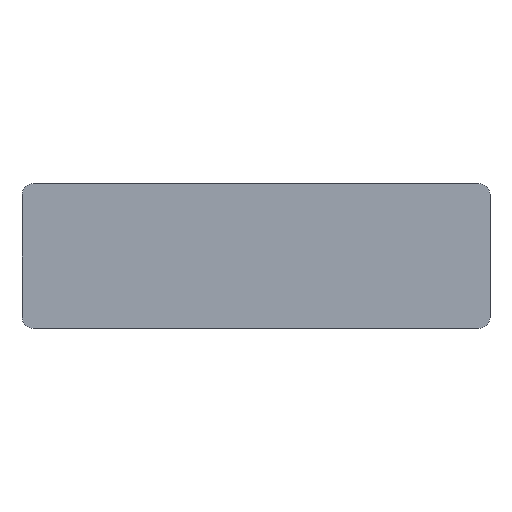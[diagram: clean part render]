
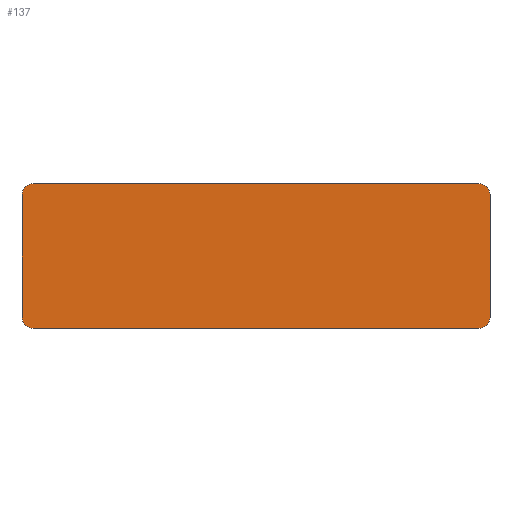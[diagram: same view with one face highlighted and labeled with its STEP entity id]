
A CAD part, top view. The second image highlights one B-rep face of the part: STEP entity #137.
In plain terms, the highlighted planar face has unit normal (0, 0, 1).
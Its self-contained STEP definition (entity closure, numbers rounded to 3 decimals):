
#21 = EDGE_CURVE('',#22,#24,#26,.T.);
#22 = VERTEX_POINT('',#23);
#23 = CARTESIAN_POINT('',(42.,51.,51.8));
#24 = VERTEX_POINT('',#25);
#25 = CARTESIAN_POINT('',(42.,73.,51.8));
#26 = SURFACE_CURVE('',#27,(#31,#43),.PCURVE_S1.);
#27 = LINE('',#28,#29);
#28 = CARTESIAN_POINT('',(42.,49.,51.8));
#29 = VECTOR('',#30,1.);
#30 = DIRECTION('',(0.,1.,0.));
#31 = PCURVE('',#32,#37);
#32 = PLANE('',#33);
#33 = AXIS2_PLACEMENT_3D('',#34,#35,#36);
#34 = CARTESIAN_POINT('',(42.,49.,51.45));
#35 = DIRECTION('',(1.,0.,0.));
#36 = DIRECTION('',(0.,0.,1.));
#37 = DEFINITIONAL_REPRESENTATION('',(#38),#42);
#38 = LINE('',#39,#40);
#39 = CARTESIAN_POINT('',(0.35,0.));
#40 = VECTOR('',#41,1.);
#41 = DIRECTION('',(0.,-1.));
#42 = ( GEOMETRIC_REPRESENTATION_CONTEXT(2) 
PARAMETRIC_REPRESENTATION_CONTEXT() REPRESENTATION_CONTEXT('2D SPACE',''
  ) );
#43 = PCURVE('',#44,#49);
#44 = PLANE('',#45);
#45 = AXIS2_PLACEMENT_3D('',#46,#47,#48);
#46 = CARTESIAN_POINT('',(42.,49.,51.8));
#47 = DIRECTION('',(0.,0.,1.));
#48 = DIRECTION('',(1.,0.,0.));
#49 = DEFINITIONAL_REPRESENTATION('',(#50),#54);
#50 = LINE('',#51,#52);
#51 = CARTESIAN_POINT('',(0.,0.));
#52 = VECTOR('',#53,1.);
#53 = DIRECTION('',(0.,1.));
#54 = ( GEOMETRIC_REPRESENTATION_CONTEXT(2) 
PARAMETRIC_REPRESENTATION_CONTEXT() REPRESENTATION_CONTEXT('2D SPACE',''
  ) );
#72 = CYLINDRICAL_SURFACE('',#73,2.);
#73 = AXIS2_PLACEMENT_3D('',#74,#75,#76);
#74 = CARTESIAN_POINT('',(44.,51.,51.45));
#75 = DIRECTION('',(0.,0.,1.));
#76 = DIRECTION('',(-1.,-0.,0.));
#126 = CYLINDRICAL_SURFACE('',#127,2.);
#127 = AXIS2_PLACEMENT_3D('',#128,#129,#130);
#128 = CARTESIAN_POINT('',(44.,73.,51.45));
#129 = DIRECTION('',(0.,0.,1.));
#130 = DIRECTION('',(-1.,-0.,0.));
#137 = ADVANCED_FACE('',(#138),#44,.T.);
#138 = FACE_BOUND('',#139,.T.);
#139 = EDGE_LOOP('',(#140,#141,#165,#193,#226,#254,#283,#311));
#140 = ORIENTED_EDGE('',*,*,#21,.F.);
#141 = ORIENTED_EDGE('',*,*,#142,.T.);
#142 = EDGE_CURVE('',#22,#143,#145,.T.);
#143 = VERTEX_POINT('',#144);
#144 = CARTESIAN_POINT('',(44.,49.,51.8));
#145 = SURFACE_CURVE('',#146,(#151,#158),.PCURVE_S1.);
#146 = CIRCLE('',#147,2.);
#147 = AXIS2_PLACEMENT_3D('',#148,#149,#150);
#148 = CARTESIAN_POINT('',(44.,51.,51.8));
#149 = DIRECTION('',(0.,0.,1.));
#150 = DIRECTION('',(0.,-1.,0.));
#151 = PCURVE('',#44,#152);
#152 = DEFINITIONAL_REPRESENTATION('',(#153),#157);
#153 = CIRCLE('',#154,2.);
#154 = AXIS2_PLACEMENT_2D('',#155,#156);
#155 = CARTESIAN_POINT('',(2.,2.));
#156 = DIRECTION('',(0.,-1.));
#157 = ( GEOMETRIC_REPRESENTATION_CONTEXT(2) 
PARAMETRIC_REPRESENTATION_CONTEXT() REPRESENTATION_CONTEXT('2D SPACE',''
  ) );
#158 = PCURVE('',#72,#159);
#159 = DEFINITIONAL_REPRESENTATION('',(#160),#164);
#160 = LINE('',#161,#162);
#161 = CARTESIAN_POINT('',(-4.712,0.35));
#162 = VECTOR('',#163,1.);
#163 = DIRECTION('',(1.,0.));
#164 = ( GEOMETRIC_REPRESENTATION_CONTEXT(2) 
PARAMETRIC_REPRESENTATION_CONTEXT() REPRESENTATION_CONTEXT('2D SPACE',''
  ) );
#165 = ORIENTED_EDGE('',*,*,#166,.T.);
#166 = EDGE_CURVE('',#143,#167,#169,.T.);
#167 = VERTEX_POINT('',#168);
#168 = CARTESIAN_POINT('',(124.,49.,51.8));
#169 = SURFACE_CURVE('',#170,(#174,#181),.PCURVE_S1.);
#170 = LINE('',#171,#172);
#171 = CARTESIAN_POINT('',(42.,49.,51.8));
#172 = VECTOR('',#173,1.);
#173 = DIRECTION('',(1.,0.,0.));
#174 = PCURVE('',#44,#175);
#175 = DEFINITIONAL_REPRESENTATION('',(#176),#180);
#176 = LINE('',#177,#178);
#177 = CARTESIAN_POINT('',(0.,0.));
#178 = VECTOR('',#179,1.);
#179 = DIRECTION('',(1.,0.));
#180 = ( GEOMETRIC_REPRESENTATION_CONTEXT(2) 
PARAMETRIC_REPRESENTATION_CONTEXT() REPRESENTATION_CONTEXT('2D SPACE',''
  ) );
#181 = PCURVE('',#182,#187);
#182 = PLANE('',#183);
#183 = AXIS2_PLACEMENT_3D('',#184,#185,#186);
#184 = CARTESIAN_POINT('',(42.,49.,51.45));
#185 = DIRECTION('',(0.,1.,0.));
#186 = DIRECTION('',(0.,0.,1.));
#187 = DEFINITIONAL_REPRESENTATION('',(#188),#192);
#188 = LINE('',#189,#190);
#189 = CARTESIAN_POINT('',(0.35,0.));
#190 = VECTOR('',#191,1.);
#191 = DIRECTION('',(0.,1.));
#192 = ( GEOMETRIC_REPRESENTATION_CONTEXT(2) 
PARAMETRIC_REPRESENTATION_CONTEXT() REPRESENTATION_CONTEXT('2D SPACE',''
  ) );
#193 = ORIENTED_EDGE('',*,*,#194,.F.);
#194 = EDGE_CURVE('',#195,#167,#197,.T.);
#195 = VERTEX_POINT('',#196);
#196 = CARTESIAN_POINT('',(126.,51.,51.8));
#197 = SURFACE_CURVE('',#198,(#203,#214),.PCURVE_S1.);
#198 = CIRCLE('',#199,2.);
#199 = AXIS2_PLACEMENT_3D('',#200,#201,#202);
#200 = CARTESIAN_POINT('',(124.,51.,51.8));
#201 = DIRECTION('',(-0.,-0.,-1.));
#202 = DIRECTION('',(0.,-1.,0.));
#203 = PCURVE('',#44,#204);
#204 = DEFINITIONAL_REPRESENTATION('',(#205),#213);
#205 = ( BOUNDED_CURVE() B_SPLINE_CURVE(2,(#206,#207,#208,#209,#210,#211
,#212),.UNSPECIFIED.,.T.,.F.) B_SPLINE_CURVE_WITH_KNOTS((1,2,2,2,2,1),(
    -2.094,0.,2.094,4.189,6.283,
8.378),.UNSPECIFIED.) CURVE() GEOMETRIC_REPRESENTATION_ITEM() 
RATIONAL_B_SPLINE_CURVE((1.,0.5,1.,0.5,1.,0.5,1.)) REPRESENTATION_ITEM(
  '') );
#206 = CARTESIAN_POINT('',(82.,0.));
#207 = CARTESIAN_POINT('',(78.536,0.));
#208 = CARTESIAN_POINT('',(80.268,3.));
#209 = CARTESIAN_POINT('',(82.,6.));
#210 = CARTESIAN_POINT('',(83.732,3.));
#211 = CARTESIAN_POINT('',(85.464,0.));
#212 = CARTESIAN_POINT('',(82.,0.));
#213 = ( GEOMETRIC_REPRESENTATION_CONTEXT(2) 
PARAMETRIC_REPRESENTATION_CONTEXT() REPRESENTATION_CONTEXT('2D SPACE',''
  ) );
#214 = PCURVE('',#215,#220);
#215 = CYLINDRICAL_SURFACE('',#216,2.);
#216 = AXIS2_PLACEMENT_3D('',#217,#218,#219);
#217 = CARTESIAN_POINT('',(124.,51.,51.45));
#218 = DIRECTION('',(0.,0.,1.));
#219 = DIRECTION('',(1.,0.,-0.));
#220 = DEFINITIONAL_REPRESENTATION('',(#221),#225);
#221 = LINE('',#222,#223);
#222 = CARTESIAN_POINT('',(4.712,0.35));
#223 = VECTOR('',#224,1.);
#224 = DIRECTION('',(-1.,0.));
#225 = ( GEOMETRIC_REPRESENTATION_CONTEXT(2) 
PARAMETRIC_REPRESENTATION_CONTEXT() REPRESENTATION_CONTEXT('2D SPACE',''
  ) );
#226 = ORIENTED_EDGE('',*,*,#227,.T.);
#227 = EDGE_CURVE('',#195,#228,#230,.T.);
#228 = VERTEX_POINT('',#229);
#229 = CARTESIAN_POINT('',(126.,73.,51.8));
#230 = SURFACE_CURVE('',#231,(#235,#242),.PCURVE_S1.);
#231 = LINE('',#232,#233);
#232 = CARTESIAN_POINT('',(126.,49.,51.8));
#233 = VECTOR('',#234,1.);
#234 = DIRECTION('',(0.,1.,0.));
#235 = PCURVE('',#44,#236);
#236 = DEFINITIONAL_REPRESENTATION('',(#237),#241);
#237 = LINE('',#238,#239);
#238 = CARTESIAN_POINT('',(84.,0.));
#239 = VECTOR('',#240,1.);
#240 = DIRECTION('',(0.,1.));
#241 = ( GEOMETRIC_REPRESENTATION_CONTEXT(2) 
PARAMETRIC_REPRESENTATION_CONTEXT() REPRESENTATION_CONTEXT('2D SPACE',''
  ) );
#242 = PCURVE('',#243,#248);
#243 = PLANE('',#244);
#244 = AXIS2_PLACEMENT_3D('',#245,#246,#247);
#245 = CARTESIAN_POINT('',(126.,49.,51.45));
#246 = DIRECTION('',(1.,0.,0.));
#247 = DIRECTION('',(0.,0.,1.));
#248 = DEFINITIONAL_REPRESENTATION('',(#249),#253);
#249 = LINE('',#250,#251);
#250 = CARTESIAN_POINT('',(0.35,0.));
#251 = VECTOR('',#252,1.);
#252 = DIRECTION('',(0.,-1.));
#253 = ( GEOMETRIC_REPRESENTATION_CONTEXT(2) 
PARAMETRIC_REPRESENTATION_CONTEXT() REPRESENTATION_CONTEXT('2D SPACE',''
  ) );
#254 = ORIENTED_EDGE('',*,*,#255,.T.);
#255 = EDGE_CURVE('',#228,#256,#258,.T.);
#256 = VERTEX_POINT('',#257);
#257 = CARTESIAN_POINT('',(124.,75.,51.8));
#258 = SURFACE_CURVE('',#259,(#264,#271),.PCURVE_S1.);
#259 = CIRCLE('',#260,2.);
#260 = AXIS2_PLACEMENT_3D('',#261,#262,#263);
#261 = CARTESIAN_POINT('',(124.,73.,51.8));
#262 = DIRECTION('',(0.,0.,1.));
#263 = DIRECTION('',(0.,-1.,0.));
#264 = PCURVE('',#44,#265);
#265 = DEFINITIONAL_REPRESENTATION('',(#266),#270);
#266 = CIRCLE('',#267,2.);
#267 = AXIS2_PLACEMENT_2D('',#268,#269);
#268 = CARTESIAN_POINT('',(82.,24.));
#269 = DIRECTION('',(0.,-1.));
#270 = ( GEOMETRIC_REPRESENTATION_CONTEXT(2) 
PARAMETRIC_REPRESENTATION_CONTEXT() REPRESENTATION_CONTEXT('2D SPACE',''
  ) );
#271 = PCURVE('',#272,#277);
#272 = CYLINDRICAL_SURFACE('',#273,2.);
#273 = AXIS2_PLACEMENT_3D('',#274,#275,#276);
#274 = CARTESIAN_POINT('',(124.,73.,51.45));
#275 = DIRECTION('',(0.,0.,1.));
#276 = DIRECTION('',(1.,0.,-0.));
#277 = DEFINITIONAL_REPRESENTATION('',(#278),#282);
#278 = LINE('',#279,#280);
#279 = CARTESIAN_POINT('',(-1.571,0.35));
#280 = VECTOR('',#281,1.);
#281 = DIRECTION('',(1.,0.));
#282 = ( GEOMETRIC_REPRESENTATION_CONTEXT(2) 
PARAMETRIC_REPRESENTATION_CONTEXT() REPRESENTATION_CONTEXT('2D SPACE',''
  ) );
#283 = ORIENTED_EDGE('',*,*,#284,.F.);
#284 = EDGE_CURVE('',#285,#256,#287,.T.);
#285 = VERTEX_POINT('',#286);
#286 = CARTESIAN_POINT('',(44.,75.,51.8));
#287 = SURFACE_CURVE('',#288,(#292,#299),.PCURVE_S1.);
#288 = LINE('',#289,#290);
#289 = CARTESIAN_POINT('',(42.,75.,51.8));
#290 = VECTOR('',#291,1.);
#291 = DIRECTION('',(1.,0.,0.));
#292 = PCURVE('',#44,#293);
#293 = DEFINITIONAL_REPRESENTATION('',(#294),#298);
#294 = LINE('',#295,#296);
#295 = CARTESIAN_POINT('',(0.,26.));
#296 = VECTOR('',#297,1.);
#297 = DIRECTION('',(1.,0.));
#298 = ( GEOMETRIC_REPRESENTATION_CONTEXT(2) 
PARAMETRIC_REPRESENTATION_CONTEXT() REPRESENTATION_CONTEXT('2D SPACE',''
  ) );
#299 = PCURVE('',#300,#305);
#300 = PLANE('',#301);
#301 = AXIS2_PLACEMENT_3D('',#302,#303,#304);
#302 = CARTESIAN_POINT('',(42.,75.,51.45));
#303 = DIRECTION('',(0.,1.,0.));
#304 = DIRECTION('',(0.,0.,1.));
#305 = DEFINITIONAL_REPRESENTATION('',(#306),#310);
#306 = LINE('',#307,#308);
#307 = CARTESIAN_POINT('',(0.35,0.));
#308 = VECTOR('',#309,1.);
#309 = DIRECTION('',(0.,1.));
#310 = ( GEOMETRIC_REPRESENTATION_CONTEXT(2) 
PARAMETRIC_REPRESENTATION_CONTEXT() REPRESENTATION_CONTEXT('2D SPACE',''
  ) );
#311 = ORIENTED_EDGE('',*,*,#312,.F.);
#312 = EDGE_CURVE('',#24,#285,#313,.T.);
#313 = SURFACE_CURVE('',#314,(#319,#330),.PCURVE_S1.);
#314 = CIRCLE('',#315,2.);
#315 = AXIS2_PLACEMENT_3D('',#316,#317,#318);
#316 = CARTESIAN_POINT('',(44.,73.,51.8));
#317 = DIRECTION('',(-0.,-0.,-1.));
#318 = DIRECTION('',(0.,-1.,0.));
#319 = PCURVE('',#44,#320);
#320 = DEFINITIONAL_REPRESENTATION('',(#321),#329);
#321 = ( BOUNDED_CURVE() B_SPLINE_CURVE(2,(#322,#323,#324,#325,#326,#327
,#328),.UNSPECIFIED.,.T.,.F.) B_SPLINE_CURVE_WITH_KNOTS((1,2,2,2,2,1),(
    -2.094,0.,2.094,4.189,6.283,
8.378),.UNSPECIFIED.) CURVE() GEOMETRIC_REPRESENTATION_ITEM() 
RATIONAL_B_SPLINE_CURVE((1.,0.5,1.,0.5,1.,0.5,1.)) REPRESENTATION_ITEM(
  '') );
#322 = CARTESIAN_POINT('',(2.,22.));
#323 = CARTESIAN_POINT('',(-1.464,22.));
#324 = CARTESIAN_POINT('',(0.268,25.));
#325 = CARTESIAN_POINT('',(2.,28.));
#326 = CARTESIAN_POINT('',(3.732,25.));
#327 = CARTESIAN_POINT('',(5.464,22.));
#328 = CARTESIAN_POINT('',(2.,22.));
#329 = ( GEOMETRIC_REPRESENTATION_CONTEXT(2) 
PARAMETRIC_REPRESENTATION_CONTEXT() REPRESENTATION_CONTEXT('2D SPACE',''
  ) );
#330 = PCURVE('',#126,#331);
#331 = DEFINITIONAL_REPRESENTATION('',(#332),#336);
#332 = LINE('',#333,#334);
#333 = CARTESIAN_POINT('',(1.571,0.35));
#334 = VECTOR('',#335,1.);
#335 = DIRECTION('',(-1.,0.));
#336 = ( GEOMETRIC_REPRESENTATION_CONTEXT(2) 
PARAMETRIC_REPRESENTATION_CONTEXT() REPRESENTATION_CONTEXT('2D SPACE',''
  ) );
